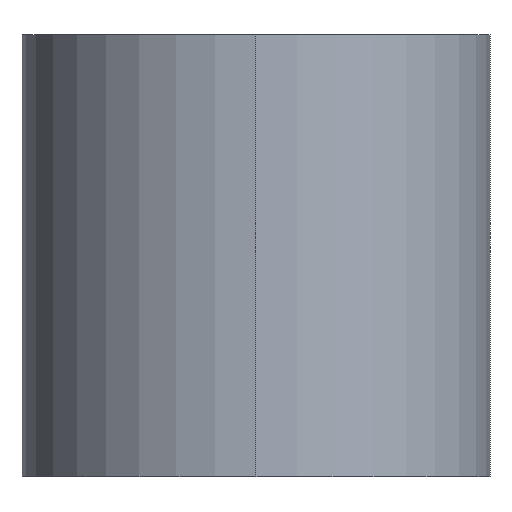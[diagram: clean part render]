
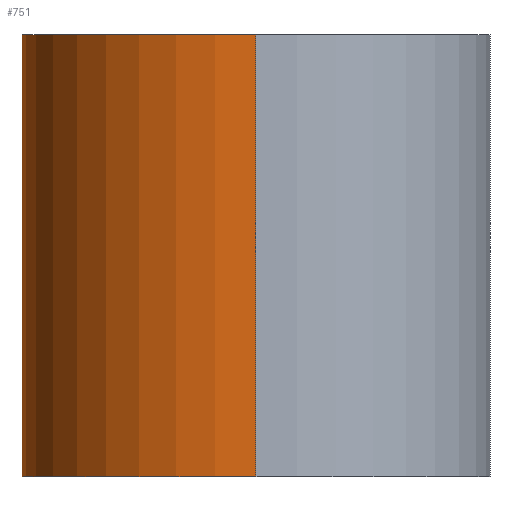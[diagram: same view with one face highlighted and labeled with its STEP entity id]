
A CAD part, left-side view. The second image highlights one B-rep face of the part: STEP entity #751.
In plain terms, the highlighted cylindrical face has radius 9 mm (diameter 18 mm), a partial arc.
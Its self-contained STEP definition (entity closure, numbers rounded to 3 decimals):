
#196=CARTESIAN_POINT('',(0.,0.,8.5));
#197=DIRECTION('',(0.,0.,-1.));
#198=DIRECTION('',(-1.,0.,0.));
#199=AXIS2_PLACEMENT_3D('',#196,#197,#198);
#216=CARTESIAN_POINT('',(5.953,6.75,0.));
#217=CARTESIAN_POINT('',(5.953,6.75,0.136));
#218=CARTESIAN_POINT('',(5.962,6.742,0.411));
#219=CARTESIAN_POINT('',(6.005,6.704,0.826));
#220=CARTESIAN_POINT('',(6.078,6.638,1.253));
#221=CARTESIAN_POINT('',(6.184,6.54,1.692));
#222=CARTESIAN_POINT('',(6.324,6.405,2.148));
#223=CARTESIAN_POINT('',(6.499,6.228,2.619));
#224=CARTESIAN_POINT('',(6.709,6.003,3.104));
#225=CARTESIAN_POINT('',(6.947,5.726,3.589));
#226=CARTESIAN_POINT('',(7.205,5.399,4.065));
#227=CARTESIAN_POINT('',(7.468,5.03,4.514));
#228=CARTESIAN_POINT('',(7.725,4.626,4.927));
#229=CARTESIAN_POINT('',(7.966,4.198,5.296));
#230=CARTESIAN_POINT('',(8.186,3.752,5.62));
#231=CARTESIAN_POINT('',(8.38,3.295,5.899));
#232=CARTESIAN_POINT('',(8.548,2.831,6.135));
#233=CARTESIAN_POINT('',(8.689,2.361,6.33));
#234=CARTESIAN_POINT('',(8.804,1.89,6.486));
#235=CARTESIAN_POINT('',(8.892,1.418,6.605));
#236=CARTESIAN_POINT('',(8.954,0.945,6.689));
#237=CARTESIAN_POINT('',(8.992,0.473,6.739));
#238=CARTESIAN_POINT('',(9.,0.157,6.75));
#239=CARTESIAN_POINT('',(9.,0.,6.75));
#241=DIRECTION('',(0.,0.,1.));
#242=VECTOR('',#241,1.75);
#243=CARTESIAN_POINT('',(9.,0.,6.75));
#244=LINE('',#243,#242);
#245=DIRECTION('',(0.,0.,1.));
#246=VECTOR('',#245,1.75);
#247=CARTESIAN_POINT('',(9.,0.,-8.5));
#248=LINE('',#247,#246);
#278=CARTESIAN_POINT('',(5.953,6.75,0.));
#279=CARTESIAN_POINT('',(5.953,6.75,-0.136));
#280=CARTESIAN_POINT('',(5.962,6.742,-0.411));
#281=CARTESIAN_POINT('',(6.005,6.704,-0.827));
#282=CARTESIAN_POINT('',(6.078,6.638,-1.253));
#283=CARTESIAN_POINT('',(6.184,6.54,-1.692));
#284=CARTESIAN_POINT('',(6.324,6.405,-2.148));
#285=CARTESIAN_POINT('',(6.499,6.228,-2.619));
#286=CARTESIAN_POINT('',(6.709,6.003,-3.104));
#287=CARTESIAN_POINT('',(6.947,5.726,-3.589));
#288=CARTESIAN_POINT('',(7.205,5.399,-4.065));
#289=CARTESIAN_POINT('',(7.468,5.03,-4.514));
#290=CARTESIAN_POINT('',(7.725,4.626,-4.927));
#291=CARTESIAN_POINT('',(7.966,4.198,-5.296));
#292=CARTESIAN_POINT('',(8.186,3.752,-5.62));
#293=CARTESIAN_POINT('',(8.38,3.294,-5.899));
#294=CARTESIAN_POINT('',(8.548,2.831,-6.135));
#295=CARTESIAN_POINT('',(8.689,2.361,-6.33));
#296=CARTESIAN_POINT('',(8.804,1.89,-6.486));
#297=CARTESIAN_POINT('',(8.892,1.418,-6.605));
#298=CARTESIAN_POINT('',(8.954,0.945,-6.689));
#299=CARTESIAN_POINT('',(8.992,0.473,-6.739));
#300=CARTESIAN_POINT('',(9.,0.157,-6.75));
#301=CARTESIAN_POINT('',(9.,0.,-6.75));
#332=DIRECTION('',(0.,0.,1.));
#333=VECTOR('',#332,17.);
#334=CARTESIAN_POINT('',(-9.,0.,-8.5));
#335=LINE('',#334,#333);
#336=CARTESIAN_POINT('',(0.,0.,-8.5));
#337=DIRECTION('',(0.,0.,1.));
#338=DIRECTION('',(1.,0.,0.));
#339=AXIS2_PLACEMENT_3D('',#336,#337,#338);
#554=VERTEX_POINT('',#216);
#555=VERTEX_POINT('',#239);
#558=CARTESIAN_POINT('',(9.,0.,8.5));
#559=VERTEX_POINT('',#558);
#560=CARTESIAN_POINT('',(-9.,0.,8.5));
#561=VERTEX_POINT('',#560);
#562=CARTESIAN_POINT('',(-9.,0.,-8.5));
#563=VERTEX_POINT('',#562);
#564=CARTESIAN_POINT('',(9.,0.,-8.5));
#565=VERTEX_POINT('',#564);
#566=CARTESIAN_POINT('',(9.,0.,-6.75));
#567=VERTEX_POINT('',#566);
#731=CARTESIAN_POINT('',(0.,0.,-8.5));
#732=DIRECTION('',(0.,0.,1.));
#733=DIRECTION('',(1.,0.,0.));
#734=AXIS2_PLACEMENT_3D('',#731,#732,#733);
#735=CYLINDRICAL_SURFACE('',#734,9.);
#737=ORIENTED_EDGE('',*,*,#736,.T.);
#739=ORIENTED_EDGE('',*,*,#738,.T.);
#740=ORIENTED_EDGE('',*,*,#719,.F.);
#742=ORIENTED_EDGE('',*,*,#741,.F.);
#744=ORIENTED_EDGE('',*,*,#743,.F.);
#746=ORIENTED_EDGE('',*,*,#745,.T.);
#748=ORIENTED_EDGE('',*,*,#747,.F.);
#749=EDGE_LOOP('',(#737,#739,#740,#742,#744,#746,#748));
#750=FACE_OUTER_BOUND('',#749,.F.);
#751=ADVANCED_FACE('',(#750),#735,.T.);
#200=CIRCLE('',#199,9.);
#240=B_SPLINE_CURVE_WITH_KNOTS('',3,(#216,#217,#218,#219,#220,#221,#222,#223,
#224,#225,#226,#227,#228,#229,#230,#231,#232,#233,#234,#235,#236,#237,#238,
#239),.UNSPECIFIED.,.F.,.F.,(4,1,1,1,1,1,1,1,1,1,1,1,1,1,1,1,1,1,1,1,1,4),(0.,
0.048,0.095,0.143,0.19,
0.238,0.286,0.333,0.381,
0.429,0.476,0.524,0.571,
0.619,0.667,0.714,0.762,
0.81,0.857,0.905,0.952,1.),
.UNSPECIFIED.);
#302=B_SPLINE_CURVE_WITH_KNOTS('',3,(#278,#279,#280,#281,#282,#283,#284,#285,
#286,#287,#288,#289,#290,#291,#292,#293,#294,#295,#296,#297,#298,#299,#300,
#301),.UNSPECIFIED.,.F.,.F.,(4,1,1,1,1,1,1,1,1,1,1,1,1,1,1,1,1,1,1,1,1,4),(0.,
0.048,0.095,0.143,0.19,
0.238,0.286,0.333,0.381,
0.429,0.476,0.524,0.571,
0.619,0.667,0.714,0.762,
0.81,0.857,0.905,0.952,1.),
.UNSPECIFIED.);
#340=CIRCLE('',#339,9.);
#719=EDGE_CURVE('',#561,#559,#200,.T.);
#736=EDGE_CURVE('',#554,#555,#240,.T.);
#738=EDGE_CURVE('',#555,#559,#244,.T.);
#741=EDGE_CURVE('',#563,#561,#335,.T.);
#743=EDGE_CURVE('',#565,#563,#340,.T.);
#745=EDGE_CURVE('',#565,#567,#248,.T.);
#747=EDGE_CURVE('',#554,#567,#302,.T.);
